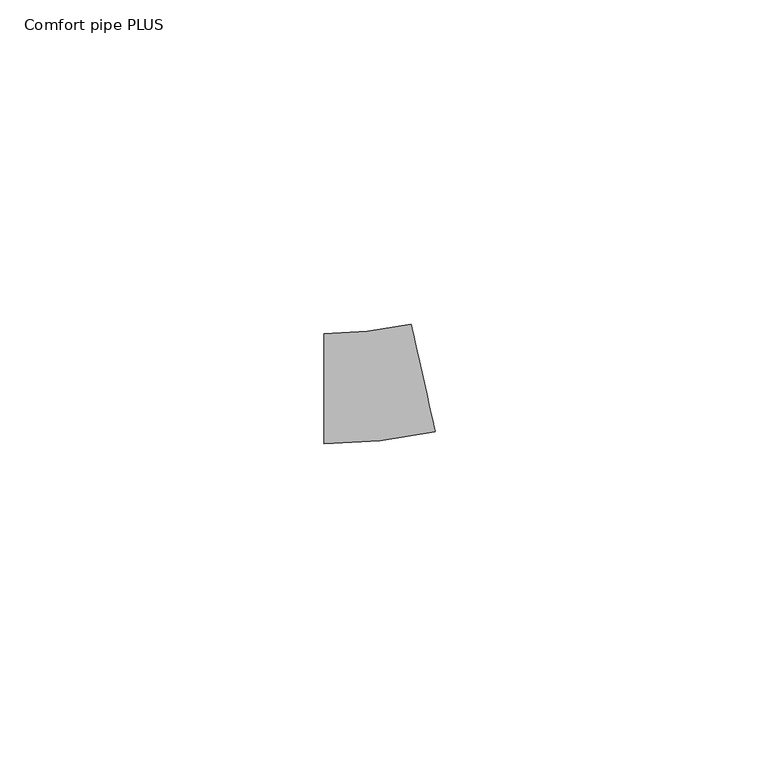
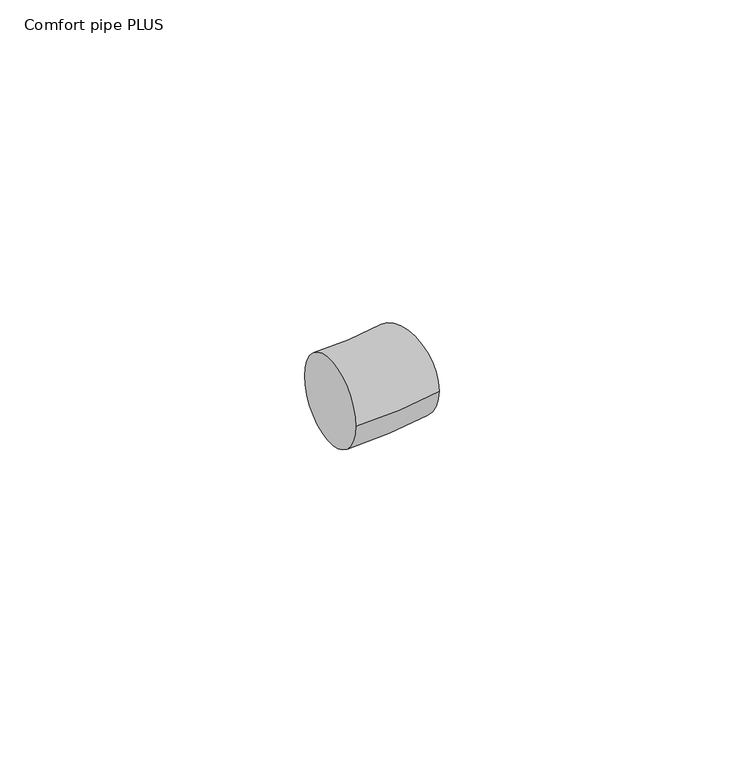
"""IFC4 building model written with IfcOpenShell, lengths in millimetres: pipe fitting geometry, 400_5-_Uponor_curved_Elbow : Comfort pipe PLUS."""

import ifcopenshell
import ifcopenshell.guid

model = None  # the IFC model being written
_history = None  # IfcOwnerHistory: only IFC2X3 demands one
_inside = {}  # id of a spatial element -> (the spatial element, [elements in it])
_under = {}  # id of a project, library or spatial element -> (it, [spatial elements below it])
_declared = {}  # id of a project -> (the project, [libraries it declares])
_typed = {}  # id of a type object -> (the type object, [elements of that type])
_made_of = {}  # id of a material, layer set ... -> (it, [elements and type objects made of it])


def new_model(schema):
    """Start an empty IFC model of exactly this schema.

    Asked for "IFC4X3", IfcOpenShell would pick the latest addendum, in which some entities
    have other attributes; the version numbers below select the first issue.
    IFC2X3 requires an IfcOwnerHistory on every rooted entity: one is made here for all.
    """
    global model, _history
    if schema == "IFC4X3":
        model = ifcopenshell.file(schema_version=(4, 3, 0, 0))
    else:
        model = ifcopenshell.file(schema=schema)
    _inside.clear()
    _under.clear()
    _declared.clear()
    _typed.clear()
    _made_of.clear()
    _history = None
    if model.schema == "IFC2X3":
        org = make("IfcOrganization", Name="unknown")
        user = make(
            "IfcPersonAndOrganization",
            ThePerson=make("IfcPerson", FamilyName="unknown"),
            TheOrganization=org,
        )
        app = make(
            "IfcApplication",
            ApplicationDeveloper=org,
            Version="unknown",
            ApplicationFullName="unknown",
            ApplicationIdentifier="unknown",
        )
        _history = make(
            "IfcOwnerHistory",
            OwningUser=user,
            OwningApplication=app,
            ChangeAction="ADDED",
            CreationDate=0,
        )
    return model


def make(cls, **values):
    """One entity of the class cls with the attributes given. An attribute that is None is left unset."""
    return model.create_entity(
        cls, **{name: value for name, value in values.items() if value is not None}
    )


def rooted(cls, **values):
    """An entity with a GlobalId (a new one), such as an element, a storey or a relation."""
    return make(cls, GlobalId=ifcopenshell.guid.new(), OwnerHistory=_history, **values)


def si_unit(unit_type, name, prefix=None):
    """IfcSIUnit, for example si_unit("LENGTHUNIT", "METRE", prefix="MILLI")."""
    return make("IfcSIUnit", UnitType=unit_type, Prefix=prefix, Name=name)


def assignment(units):
    """IfcUnitAssignment: the units of a project."""
    return None if units is None else make("IfcUnitAssignment", Units=units)


def point(xyz):
    """IfcCartesianPoint."""
    return None if xyz is None else make("IfcCartesianPoint", Coordinates=xyz)


def direction(xyz):
    """IfcDirection."""
    return None if xyz is None else make("IfcDirection", DirectionRatios=xyz)


def frame(location, z_axis=None, x_axis=None):
    """IfcAxis2Placement3D, a coordinate frame: its origin and axes. An axis left out is left unset."""
    return make(
        "IfcAxis2Placement3D",
        Location=point(location),
        Axis=direction(z_axis),
        RefDirection=direction(x_axis),
    )


def origin():
    """The frame at (0, 0, 0) with its axes left unset."""
    return frame((0.0, 0.0, 0.0))


def place(relative_to, where):
    """IfcLocalPlacement: puts the frame where relative to a parent placement (None: the world)."""
    return make(
        "IfcLocalPlacement", PlacementRelTo=relative_to, RelativePlacement=where
    )


def context(
    kind, dimensions, precision=None, world=None, true_north=None, identifier=None
):
    """IfcGeometricRepresentationContext, for example the 3D "Model" context."""
    return make(
        "IfcGeometricRepresentationContext",
        ContextIdentifier=identifier,
        ContextType=kind,
        CoordinateSpaceDimension=dimensions,
        Precision=precision,
        WorldCoordinateSystem=world,
        TrueNorth=true_north,
    )


def project(units=None, contexts=None):
    """IfcProject with its units and contexts."""
    return rooted(
        "IfcProject",
        Name="project",
        RepresentationContexts=contexts,
        UnitsInContext=assignment(units),
    )


def spatial(cls, under=None, at=None, **own):
    """A site, building, storey or space (cls), placed at a placement, below another one or the project."""
    s = rooted(cls, ObjectPlacement=at, **own)
    if under is not None:
        _under.setdefault(under.id(), (under, []))[1].append(s)
    return s


def circle_curve(where, radius):
    """IfcCircle in the frame where."""
    return make("IfcCircle", Position=where, Radius=radius)


def ellipse_curve(where, semi_axis1, semi_axis2):
    """IfcEllipse in the frame where."""
    return make(
        "IfcEllipse", Position=where, SemiAxis1=semi_axis1, SemiAxis2=semi_axis2
    )


def trimmed(basis, trim1, trim2, sense, master):
    """IfcTrimmedCurve: the piece of a basis curve between two trims."""
    return make(
        "IfcTrimmedCurve",
        BasisCurve=basis,
        Trim1=trim1,
        Trim2=trim2,
        SenseAgreement=sense,
        MasterRepresentation=master,
    )


def shape(context_of_items, identifier, shape_type, items):
    """IfcShapeRepresentation: the items that make up one representation, for example the "Body"."""
    return make(
        "IfcShapeRepresentation",
        ContextOfItems=context_of_items,
        RepresentationIdentifier=identifier,
        RepresentationType=shape_type,
        Items=items,
    )


def source(mapping_origin, context_of_items, identifier, shape_type, items):
    """IfcRepresentationMap: a shape defined once, which mapped items show again and again."""
    return make(
        "IfcRepresentationMap",
        MappingOrigin=mapping_origin,
        MappedRepresentation=shape(context_of_items, identifier, shape_type, items),
    )


def transform(
    local_origin,
    x_axis=None,
    y_axis=None,
    z_axis=None,
    scale=None,
    scale2=None,
    scale3=None,
    uniform=True,
):
    """IfcCartesianTransformationOperator3D, or its non-uniform kind. x_axis, y_axis, z_axis: its Axis1, 2, 3."""
    if uniform:
        return make(
            "IfcCartesianTransformationOperator3D",
            Axis1=direction(x_axis),
            Axis2=direction(y_axis),
            LocalOrigin=point(local_origin),
            Scale=scale,
            Axis3=direction(z_axis),
        )
    return make(
        "IfcCartesianTransformationOperator3DnonUniform",
        Axis1=direction(x_axis),
        Axis2=direction(y_axis),
        LocalOrigin=point(local_origin),
        Scale=scale,
        Axis3=direction(z_axis),
        Scale2=scale2,
        Scale3=scale3,
    )


def mapped(mapping_source, mapping_target):
    """IfcMappedItem: shows the shape of a source again, moved by a transform."""
    return make(
        "IfcMappedItem", MappingSource=mapping_source, MappingTarget=mapping_target
    )


def made_of(thing, what):
    """Note that an element or type object is made of a material, layer set ...; save() writes the relation."""
    if what is not None:
        _made_of.setdefault(what.id(), (what, []))[1].append(thing)
    return thing


def element(
    cls,
    number,
    at=None,
    inside=None,
    cuts=None,
    type_object=None,
    material=None,
    context=None,
    identifier="Body",
    shape_type=None,
    held_by="IfcProductDefinitionShape",
    body=None,
    shapes=None,
    **own,
):
    """One element of the class cls, such as IfcWall. Its Tag is "e" and its number.

    at: its placement. inside: the storey or other place that contains it. cuts: it is an
    opening in that element (IfcRelVoidsElement). A single representation is given by context,
    identifier, shape_type and body (its items); several are given by shapes. held_by: the class
    of the entity that holds the representations. save() writes the other relations.
    """
    e = rooted(cls, Tag="e%d" % number, ObjectPlacement=at, **own)
    if body is not None:
        shapes = [shape(context, identifier, shape_type, body)]
    if shapes is not None:
        e.Representation = make(held_by, Representations=shapes)
    if inside is not None:
        _inside.setdefault(inside.id(), (inside, []))[1].append(e)
    if cuts is not None:
        rooted(
            "IfcRelVoidsElement", RelatingBuildingElement=cuts, RelatedOpeningElement=e
        )
    if type_object is not None:
        _typed.setdefault(type_object.id(), (type_object, []))[1].append(e)
    return made_of(e, material)


def aggregate(whole, parts):
    """IfcRelAggregates: a whole, such as a stair, and the parts it consists of."""
    return rooted("IfcRelAggregates", RelatingObject=whole, RelatedObjects=parts)


def save(model, path):
    """Write the relations noted so far, then the file.

    IfcRelAggregates (storeys below a building ...), IfcRelContainedInSpatialStructure (elements
    in a storey), IfcRelDefinesByType, IfcRelAssociatesMaterial and IfcRelDeclares: one each for
    every whole, place, type object, material and project.
    """
    for whole, parts in _under.values():
        aggregate(whole, parts)
    for where, things in _inside.values():
        rooted(
            "IfcRelContainedInSpatialStructure",
            RelatedElements=things,
            RelatingStructure=where,
        )
    for kind, things in _typed.values():
        rooted("IfcRelDefinesByType", RelatedObjects=things, RelatingType=kind)
    for what, things in _made_of.values():
        rooted("IfcRelAssociatesMaterial", RelatedObjects=things, RelatingMaterial=what)
    for by, libraries in _declared.values():
        rooted("IfcRelDeclares", RelatingContext=by, RelatedDefinitions=libraries)
    model.write(path)


def plane_surface(at):
    """IfcPlane: the flat surface through the origin of the frame at, square to its z axis."""
    return make("IfcPlane", Position=at)


def revolved_surface(curve, axis_point, axis_direction):
    """IfcSurfaceOfRevolution: the curve turned about the line through axis_point along axis_direction."""
    return make(
        "IfcSurfaceOfRevolution",
        SweptCurve=make("IfcArbitraryOpenProfileDef", ProfileType="CURVE", Curve=curve),
        AxisPosition=make("IfcAxis1Placement", Location=point(axis_point), Axis=direction(axis_direction)),
    )


def advanced_brep(points, edges, surfaces, faces):
    """IfcAdvancedBrep: a solid bounded by faces that lie on surfaces and meet in shared edges.

    An edge is (start, end): straight between two places in points (the first is 0);
    or (start, end, curve); or (start, end, curve, False) where it runs against its curve.
    A face is (place in surfaces, loops), or (place, loops, False) where it looks against
    its surface's normal. A loop lists edges by number (the first is 1), with a minus sign
    where the edge is run from its end to its start. The first loop is the outer one.
    """
    corners = [point(p) for p in points]
    vertices = [make("IfcVertexPoint", VertexGeometry=c) for c in corners]
    made = []
    for start, end, *more in edges:
        made.append(
            make(
                "IfcEdgeCurve",
                EdgeStart=vertices[start],
                EdgeEnd=vertices[end],
                EdgeGeometry=more[0] if more else make("IfcPolyline", Points=[corners[start], corners[end]]),
                SameSense=more[1] if len(more) > 1 else True,
            )
        )
    hull = []
    for where, loops, *sense in faces:
        bounds = []
        for j, loop in enumerate(loops):
            ring = [make("IfcOrientedEdge", EdgeElement=made[abs(k) - 1], Orientation=k > 0) for k in loop]
            bounds.append(
                make(
                    "IfcFaceOuterBound" if j == 0 else "IfcFaceBound",
                    Bound=make("IfcEdgeLoop", EdgeList=ring),
                    Orientation=True,
                )
            )
        hull.append(make("IfcAdvancedFace", Bounds=bounds, FaceSurface=surfaces[where], SameSense=sense[0] if sense else True))
    return make("IfcAdvancedBrep", Outer=make("IfcClosedShell", CfsFaces=hull))


def comfort_pipe_plus_be2692b1(model_context):
    return source(origin(), model_context, "Body", "AdvancedBrep", [
        advanced_brep(
        [(-7.7490412, -8.5, 0.0), (-7.7490412, 8.5, 0.0), (9.4205444, -6.5993168, 0.0), (5.7022902, 9.9890703, 0.0)],
        [
            (0, 1, circle_curve(frame((-7.7490412, 0.0, 0.0), z_axis=(-1.0, 0.0, 0.0), x_axis=(0.0, 1.0, 0.0)), 8.5)),
            (1, 0, circle_curve(frame((-7.7490412, 0.0, 0.0), z_axis=(-1.0, 0.0, 0.0), x_axis=(0.0, 1.0, 0.0)), 8.5)),
            (2, 3, circle_curve(frame((7.5614173, 1.6948768, 0.0), z_axis=(0.9757874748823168, 0.21872083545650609, 0.0), x_axis=(-0.21872083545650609, 0.9757874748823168, 0.0)), 8.5)),
            (3, 2, circle_curve(frame((7.5614173, 1.6948768, 0.0), z_axis=(0.9757874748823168, 0.21872083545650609, 0.0), x_axis=(-0.21872083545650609, 0.9757874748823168, 0.0)), 8.5)),
            (3, 1, circle_curve(frame((-7.7490412, 70.0, 0.0), z_axis=(0.0, 0.0, -1.0), x_axis=(0.0, -1.0, 0.0)), 61.5)),
            (0, 2, circle_curve(frame((-7.7490412, 70.0, 0.0), z_axis=(0.0, 0.0, 1.0), x_axis=(0.0, -1.0, 0.0)), 78.5)),
        ],
        [
            plane_surface(frame((-7.7490412, 0.0, 0.0), z_axis=(-1.0, 0.0, 0.0), x_axis=(0.0, 0.0, 1.0))),
            plane_surface(frame((7.5614173, 1.6948768, 0.0), z_axis=(0.9757874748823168, 0.2187208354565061, 0.0), x_axis=(0.0, 0.0, 1.0))),
            revolved_surface(trimmed(ellipse_curve(frame((-7.7490412, 0.0, 0.0), z_axis=(-1.0, 0.0, 0.0), x_axis=(0.0, 1.0, 0.0)), 8.5, 8.5), [point((-7.7490412, -8.5, 0.0))], [point((-7.7490412, 8.5, 0.0))], True, "CARTESIAN"), (-7.7490412, 70.0, 0.0), (0.0, 0.0, 1.0)),
            revolved_surface(trimmed(ellipse_curve(frame((-7.7490412, 0.0, 0.0), z_axis=(-1.0, 0.0, 0.0), x_axis=(0.0, 1.0, 0.0)), 8.5, 8.5), [point((-7.7490412, 8.5, 0.0))], [point((-7.7490412, -8.5, 0.0))], True, "CARTESIAN"), (-7.7490412, 70.0, 0.0), (0.0, 0.0, 1.0)),
        ],
        [
            (0, [[1, 2]]),
            (1, [[3, 4]]),
            (2, [[5, -1, 6, -4]]),
            (3, [[-6, -2, -5, -3]]),
        ],
    ),
    ])


if __name__ == "__main__":
    model = new_model("IFC4")
    model_context = context("Model", 3, world=origin())
    ifc_project = project(units=[si_unit("LENGTHUNIT", "METRE", prefix="MILLI")], contexts=[model_context])
    site = spatial("IfcSite", under=ifc_project)
    building = spatial("IfcBuilding", under=site)
    placement = place(None, origin())
    comfort_pipe_plus_shape = comfort_pipe_plus_be2692b1(model_context)
    element("IfcPipeFitting", 1, ObjectType="400_5-_Uponor_curved_Elbow : Comfort pipe PLUS", at=placement, inside=building, context=model_context, shape_type="MappedRepresentation", body=[
        mapped(comfort_pipe_plus_shape, transform((0.0, 0.0, 0.0), x_axis=(1.0, 0.0, 0.0), y_axis=(0.0, 1.0, 0.0), z_axis=(0.0, 0.0, 1.0))),
    ])
    save(model, "model.ifc")
